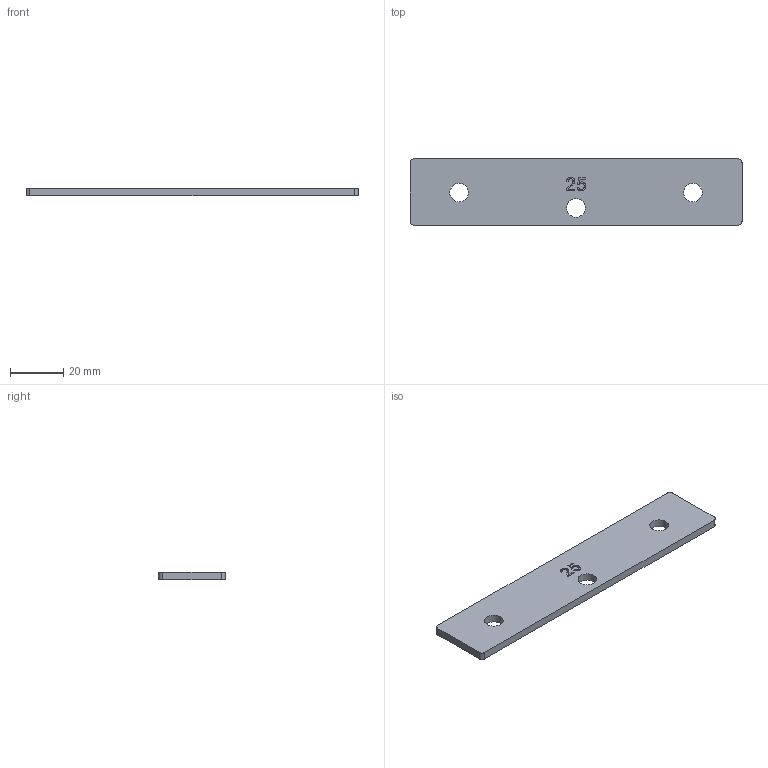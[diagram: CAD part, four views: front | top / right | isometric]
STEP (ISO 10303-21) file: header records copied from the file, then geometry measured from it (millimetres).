
FILE_DESCRIPTION(('STEP AP242'),'1');
FILE_NAME('r Allmatic und Garant.stp','2024-06-17T13:15:03',('WM'),('Schleif-Tec'),'Spatial InterOp 3D','CimatronE 16.0',' ');
FILE_SCHEMA(('AP242_MANAGED_MODEL_BASED_3D_ENGINEERING_MIM_LF'));
Length unit declared in the file: millimetre
Products named in the file (1): 13
Bounding box: 125 x 25 x 3 mm (x, y, z)
Volume: 9020.2 mm3; surface area: 7115.4 mm2
Topology: 1 solids, 1 shells, 30 faces, 81 edges, 55 vertices
Faces by surface type: plane 19, cylinder 7, extrusion 4
Full cylindrical faces by diameter (mm): 7 x3
Entity records: 1476 total; most frequent: CARTESIAN_POINT 473, ORIENTED_EDGE 150, DIRECTION 139, EDGE_CURVE 75, VECTOR 57, LINE 53, VERTEX_POINT 52, AXIS2_PLACEMENT_3D 41
